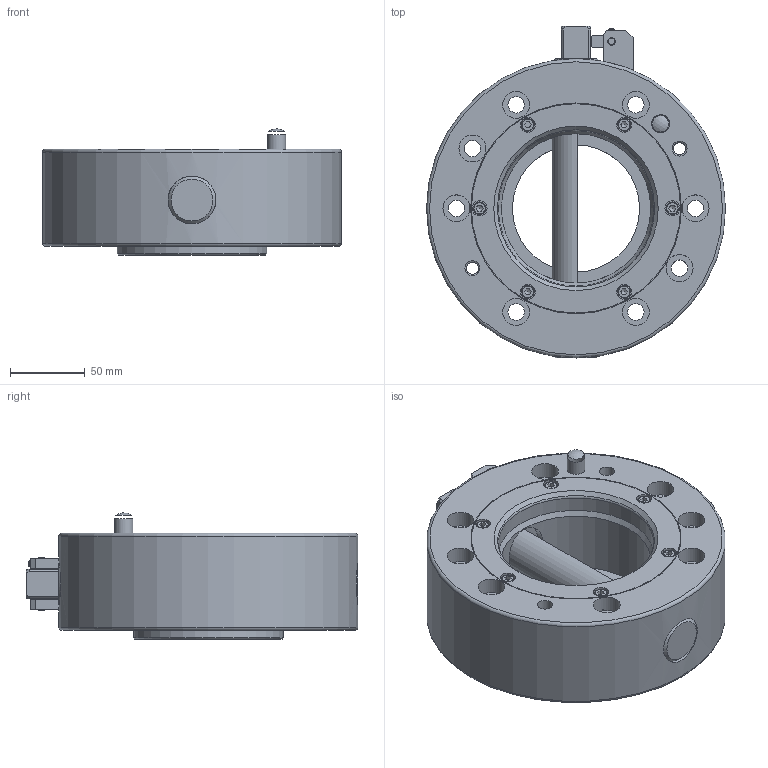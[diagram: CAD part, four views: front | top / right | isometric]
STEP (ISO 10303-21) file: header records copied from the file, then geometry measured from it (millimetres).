
FILE_DESCRIPTION(/* description */ (''),/* implementation_level */ '2;1');
FILE_NAME(/* name */ '\\dc01\daten\CAD\Standard\Daten\3D-Datenbank\Webseite 2020\SWS\200\G-SWS200-2O-N.stp',/* time_stamp */ '2020-05-05T13:17:26+02:00',/* author */ ('ysplieth'),/* organization */ (''),/* preprocessor_version */ 'ST-DEVELOPER v17',/* originating_system */ 'Autodesk Inventor 2018',/* authorisation */ '');
FILE_SCHEMA (('AUTOMOTIVE_DESIGN { 1 0 10303 214 3 1 1 }'));
Length unit declared in the file: millimetre
Products named in the file (1): G-SWS200-2O-N
Bounding box: 200 x 222 x 84.33 mm (x, y, z)
Volume: 1524090.2 mm3; surface area: 237709.1 mm2
Topology: 17 solids, 17 shells, 332 faces, 903 edges, 633 vertices
Faces by surface type: plane 153, cylinder 105, cone 52, torus 20, sphere 2
Full cylindrical faces by diameter (mm): 3.242 x2, 3.3 x1, 4 x3, 4.134 x6, 4.5 x2, 5 x9, 5.1 x2, 5.5 x7, 6.647 x1, 7 x2, 8 x5, 8.5 x6, 9 x1, 10 x13, 11 x8, 12 x2, 18 x8, 32 x6, 85 x1, 100 x2, 104 x1, 120 x2, 140 x1, 141 x1, 200 x1
Entity records: 11912 total; most frequent: CARTESIAN_POINT 2850, DIRECTION 1856, ORIENTED_EDGE 1770, EDGE_CURVE 885, AXIS2_PLACEMENT_3D 752, VERTEX_POINT 633, EDGE_LOOP 442, CIRCLE 419
